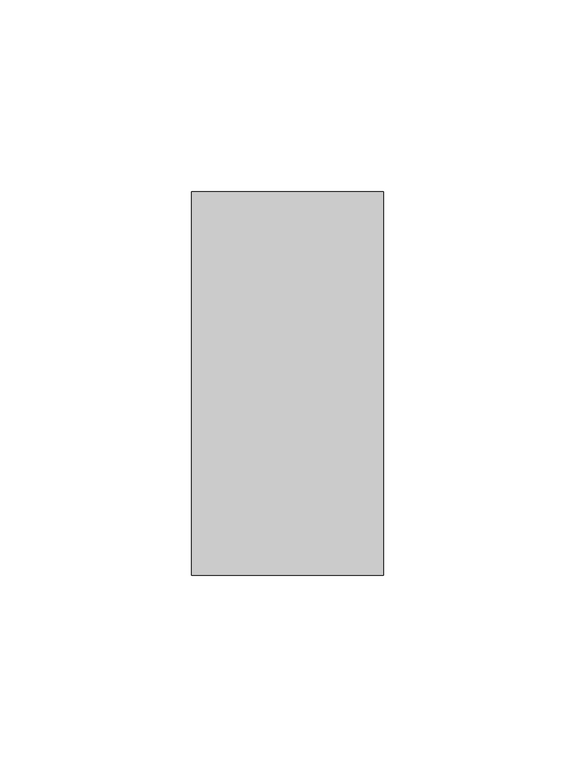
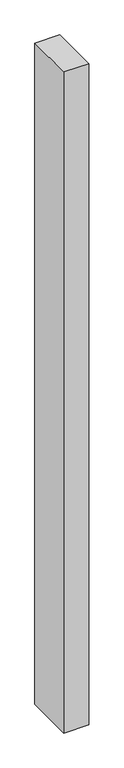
"""IFC4 building model written with IfcOpenShell, lengths in millimetres: member geometry, Прямоугольный импост : 50х100."""

from ifc_helpers import new_model, si_unit, frame, origin, place, context, project, spatial, polyline, outline, extrude, source, transform, mapped, element, save


def member_43d6c8c1(model_context):
    return source(origin(), model_context, "Body", "SweptSolid", [
        extrude(outline(polyline([(25.0, 50.0), (25.0, -50.0), (-25.0, -50.0), (-25.0, 50.0), (25.0, 50.0)])), frame((0.0, 0.0, -1400.0), z_axis=(0.0, 0.0, 1.0), x_axis=(1.0, 0.0, 0.0)), (0.0, 0.0, 1.0), 1400.0),
    ])


if __name__ == "__main__":
    model = new_model("IFC4")
    model_context = context("Model", 3, world=origin())
    ifc_project = project(units=[si_unit("LENGTHUNIT", "METRE", prefix="MILLI")], contexts=[model_context])
    site = spatial("IfcSite", under=ifc_project)
    building = spatial("IfcBuilding", under=site)
    placement = place(None, origin())
    member_shape = member_43d6c8c1(model_context)
    element("IfcMember", 1, ObjectType="Прямоугольный импост : 50х100", at=placement, inside=building, context=model_context, shape_type="MappedRepresentation", body=[
        mapped(member_shape, transform((0.0, 0.0, 0.0), x_axis=(1.0, 0.0, 0.0), y_axis=(0.0, 1.0, 0.0), z_axis=(0.0, 0.0, 1.0))),
    ])
    save(model, "model.ifc")
